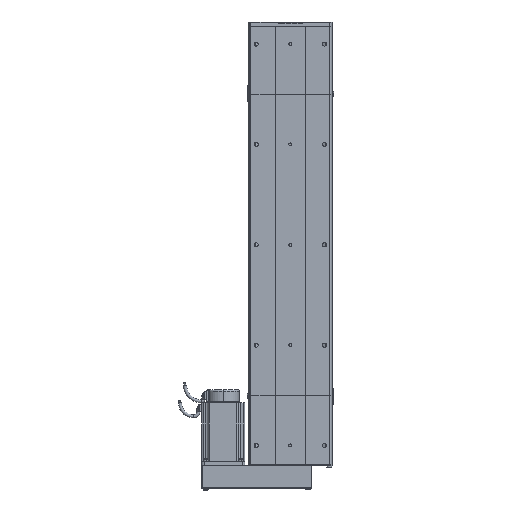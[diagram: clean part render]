
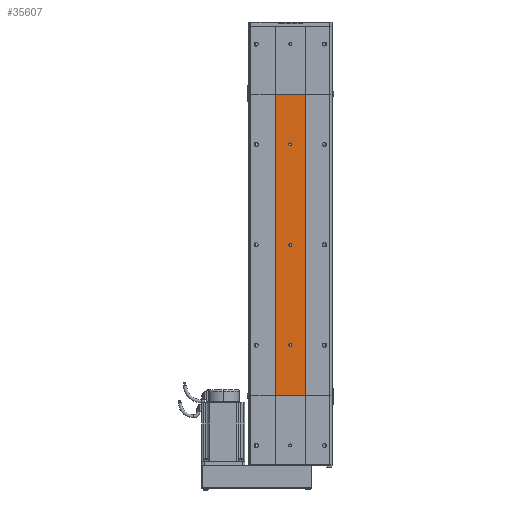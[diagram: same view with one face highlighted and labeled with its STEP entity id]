
A CAD part, front view. The second image highlights one B-rep face of the part: STEP entity #35607.
In plain terms, the highlighted planar face has unit normal (0, -1, 0).
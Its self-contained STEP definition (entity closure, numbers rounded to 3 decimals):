
#1182 = DIRECTION ( 'NONE',  ( -1., 0., 0. ) ) ;
#2475 = VERTEX_POINT ( 'NONE', #24111 ) ;
#2477 = EDGE_CURVE ( 'NONE', #2511, #2475, #24109, .T. ) ;
#2511 = VERTEX_POINT ( 'NONE', #24557 ) ;
#2530 = VERTEX_POINT ( 'NONE', #24568 ) ;
#2559 = EDGE_CURVE ( 'NONE', #2530, #2561, #24624, .T. ) ;
#2561 = VERTEX_POINT ( 'NONE', #24721 ) ;
#2606 = EDGE_CURVE ( 'NONE', #2628, #2607, #24953, .T. ) ;
#2607 = VERTEX_POINT ( 'NONE', #24960 ) ;
#2628 = VERTEX_POINT ( 'NONE', #24919 ) ;
#4082 = CARTESIAN_POINT ( 'NONE',  ( 30., -32.5, 0. ) ) ;
#4489 = CARTESIAN_POINT ( 'NONE',  ( -30., -32.5, 0. ) ) ;
#4490 = LINE ( 'NONE', #4489, #4496 ) ;
#4496 = VECTOR ( 'NONE', #1182, 1000. ) ;
#4502 = CARTESIAN_POINT ( 'NONE',  ( -30., -32.5, 0. ) ) ;
#23998 = AXIS2_PLACEMENT_3D ( 'NONE', #24098, #24090, #24081 ) ;
#24081 = DIRECTION ( 'NONE',  ( 0., 0., -1. ) ) ;
#24090 = DIRECTION ( 'NONE',  ( 0., -1., 0. ) ) ;
#24098 = CARTESIAN_POINT ( 'NONE',  ( 0., -32.5, 100. ) ) ;
#24109 = CIRCLE ( 'NONE', #23998, 3. ) ;
#24111 = CARTESIAN_POINT ( 'NONE',  ( 0., -32.5, 97. ) ) ;
#24557 = CARTESIAN_POINT ( 'NONE',  ( 0., -32.5, 103. ) ) ;
#24568 = CARTESIAN_POINT ( 'NONE',  ( 0., -32.5, 303. ) ) ;
#24624 = CIRCLE ( 'NONE', #24726, 3. ) ;
#24707 = DIRECTION ( 'NONE',  ( 0., 0., -1. ) ) ;
#24708 = DIRECTION ( 'NONE',  ( 0., -1., 0. ) ) ;
#24709 = CARTESIAN_POINT ( 'NONE',  ( 0., -32.5, 300. ) ) ;
#24721 = CARTESIAN_POINT ( 'NONE',  ( 0., -32.5, 297. ) ) ;
#24726 = AXIS2_PLACEMENT_3D ( 'NONE', #24709, #24708, #24707 ) ;
#24919 = CARTESIAN_POINT ( 'NONE',  ( 0., -32.5, 503. ) ) ;
#24934 = DIRECTION ( 'NONE',  ( 0., 0., -1. ) ) ;
#24935 = DIRECTION ( 'NONE',  ( 0., -1., 0. ) ) ;
#24953 = CIRCLE ( 'NONE', #24956, 3. ) ;
#24956 = AXIS2_PLACEMENT_3D ( 'NONE', #24961, #24935, #24934 ) ;
#24960 = CARTESIAN_POINT ( 'NONE',  ( 0., -32.5, 497. ) ) ;
#24961 = CARTESIAN_POINT ( 'NONE',  ( 0., -32.5, 500. ) ) ;
#30047 = LINE ( 'NONE', #30102, #30101 ) ;
#30076 = FACE_BOUND ( 'NONE', #35626, .T. ) ;
#30086 = FACE_OUTER_BOUND ( 'NONE', #35333, .T. ) ;
#30097 = DIRECTION ( 'NONE',  ( 0., 0., 1. ) ) ;
#30101 = VECTOR ( 'NONE', #30097, 1000. ) ;
#30102 = CARTESIAN_POINT ( 'NONE',  ( -30., -32.5, 0. ) ) ;
#30114 = DIRECTION ( 'NONE',  ( 0., 0., 1. ) ) ;
#30115 = DIRECTION ( 'NONE',  ( 0., 1., 0. ) ) ;
#30122 = AXIS2_PLACEMENT_3D ( 'NONE', #30134, #30115, #30114 ) ;
#30126 = PLANE ( 'NONE',  #30122 ) ;
#30134 = CARTESIAN_POINT ( 'NONE',  ( -30., -32.5, 0. ) ) ;
#30150 = FACE_BOUND ( 'NONE', #35617, .T. ) ;
#30157 = FACE_BOUND ( 'NONE', #35323, .T. ) ;
#30166 = DIRECTION ( 'NONE',  ( 0., 0., -1. ) ) ;
#30167 = DIRECTION ( 'NONE',  ( 0., -1., 0. ) ) ;
#30168 = CARTESIAN_POINT ( 'NONE',  ( 0., -32.5, 500. ) ) ;
#30169 = AXIS2_PLACEMENT_3D ( 'NONE', #30168, #30167, #30166 ) ;
#30200 = CIRCLE ( 'NONE', #30169, 3. ) ;
#30241 = DIRECTION ( 'NONE',  ( 0., 0., -1. ) ) ;
#30243 = AXIS2_PLACEMENT_3D ( 'NONE', #30252, #30267, #30241 ) ;
#30252 = CARTESIAN_POINT ( 'NONE',  ( 0., -32.5, 300. ) ) ;
#30267 = DIRECTION ( 'NONE',  ( 0., -1., 0. ) ) ;
#30269 = CIRCLE ( 'NONE', #30243, 3. ) ;
#30312 = VERTEX_POINT ( 'NONE', #4082 ) ;
#30382 = DIRECTION ( 'NONE',  ( 0., 0., -1. ) ) ;
#30383 = DIRECTION ( 'NONE',  ( 0., -1., 0. ) ) ;
#30384 = AXIS2_PLACEMENT_3D ( 'NONE', #30391, #30383, #30382 ) ;
#30385 = CIRCLE ( 'NONE', #30384, 3. ) ;
#30391 = CARTESIAN_POINT ( 'NONE',  ( 0., -32.5, 100. ) ) ;
#30518 = DIRECTION ( 'NONE',  ( 0., 0., 1. ) ) ;
#30519 = VECTOR ( 'NONE', #30518, 1000. ) ;
#30520 = CARTESIAN_POINT ( 'NONE',  ( 30., -32.5, 0. ) ) ;
#30521 = LINE ( 'NONE', #30520, #30519 ) ;
#31251 = VERTEX_POINT ( 'NONE', #4502 ) ;
#31262 = EDGE_CURVE ( 'NONE', #30312, #31251, #4490, .T. ) ;
#35297 = EDGE_CURVE ( 'NONE', #31251, #44951, #30047, .T. ) ;
#35305 = ORIENTED_EDGE ( 'NONE', *, *, #35618, .F. ) ;
#35323 = EDGE_LOOP ( 'NONE', ( #35305, #35608 ) ) ;
#35333 = EDGE_LOOP ( 'NONE', ( #35661, #35604, #35564, #35675 ) ) ;
#35564 = ORIENTED_EDGE ( 'NONE', *, *, #31262, .F. ) ;
#35604 = ORIENTED_EDGE ( 'NONE', *, *, #35297, .F. ) ;
#35605 = ORIENTED_EDGE ( 'NONE', *, *, #2559, .F. ) ;
#35607 = ADVANCED_FACE ( 'NONE', ( #30157, #30076, #30150, #30086 ), #30126, .F. ) ;
#35608 = ORIENTED_EDGE ( 'NONE', *, *, #2606, .F. ) ;
#35617 = EDGE_LOOP ( 'NONE', ( #35619, #35655 ) ) ;
#35618 = EDGE_CURVE ( 'NONE', #2607, #2628, #30200, .T. ) ;
#35619 = ORIENTED_EDGE ( 'NONE', *, *, #35651, .F. ) ;
#35625 = EDGE_CURVE ( 'NONE', #2561, #2530, #30269, .T. ) ;
#35626 = EDGE_LOOP ( 'NONE', ( #35650, #35605 ) ) ;
#35650 = ORIENTED_EDGE ( 'NONE', *, *, #35625, .F. ) ;
#35651 = EDGE_CURVE ( 'NONE', #2475, #2511, #30385, .T. ) ;
#35655 = ORIENTED_EDGE ( 'NONE', *, *, #2477, .F. ) ;
#35661 = ORIENTED_EDGE ( 'NONE', *, *, #44879, .T. ) ;
#35674 = EDGE_CURVE ( 'NONE', #30312, #44679, #30521, .T. ) ;
#35675 = ORIENTED_EDGE ( 'NONE', *, *, #35674, .T. ) ;
#44679 = VERTEX_POINT ( 'NONE', #72123 ) ;
#44879 = EDGE_CURVE ( 'NONE', #44679, #44951, #72347, .T. ) ;
#44951 = VERTEX_POINT ( 'NONE', #72555 ) ;
#72123 = CARTESIAN_POINT ( 'NONE',  ( 30., -32.5, 600. ) ) ;
#72347 = LINE ( 'NONE', #72350, #72365 ) ;
#72349 = DIRECTION ( 'NONE',  ( -1., 0., 0. ) ) ;
#72350 = CARTESIAN_POINT ( 'NONE',  ( -30., -32.5, 600. ) ) ;
#72365 = VECTOR ( 'NONE', #72349, 1000. ) ;
#72555 = CARTESIAN_POINT ( 'NONE',  ( -30., -32.5, 600. ) ) ;
